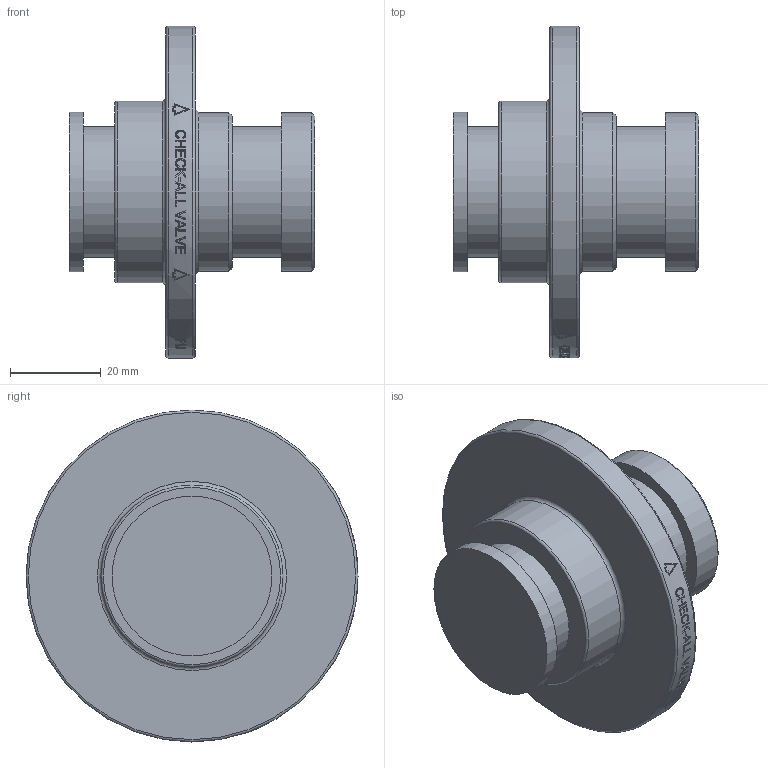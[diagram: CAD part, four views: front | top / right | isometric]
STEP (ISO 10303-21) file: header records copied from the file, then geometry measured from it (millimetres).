
FILE_DESCRIPTION( ( 'Unknown' ), '1' );
FILE_NAME( 'Y:/ENGR/3D Solid Edge Models/F1/F1 STEP/F1J.stp', 'Unknown', ( 'Unknown' ), ( 'Unknown' ), 'PSStep 14.0', 'Unknown', ' ' );
FILE_SCHEMA( ( 'AUTOMOTIVE_DESIGN { 1 0 10303 214 1 1 1 1 }' ) );
Length unit declared in the file: millimetre
Products named in the file (1): 1
Bounding box: 54.1 x 73.03 x 73.03 mm (x, y, z)
Volume: 70684.6 mm3; surface area: 15907.3 mm2
Topology: 1 solids, 1 shells, 208 faces, 524 edges, 347 vertices
Faces by surface type: plane 125, bspline 46, cylinder 30, torus 4, cone 3
Full cylindrical faces by diameter (mm): 28.829 x2, 34.925 x2, 35.179 x1, 40.005 x1, 73.025 x1
Entity records: 9201 total; most frequent: CARTESIAN_POINT 3660, ORIENTED_EDGE 1020, EDGE_CURVE 510, B_SPLINE_CURVE_WITH_KNOTS 489, DIRECTION 368, VERTEX_POINT 347, EDGE_LOOP 251, FACE_OUTER_BOUND 219
